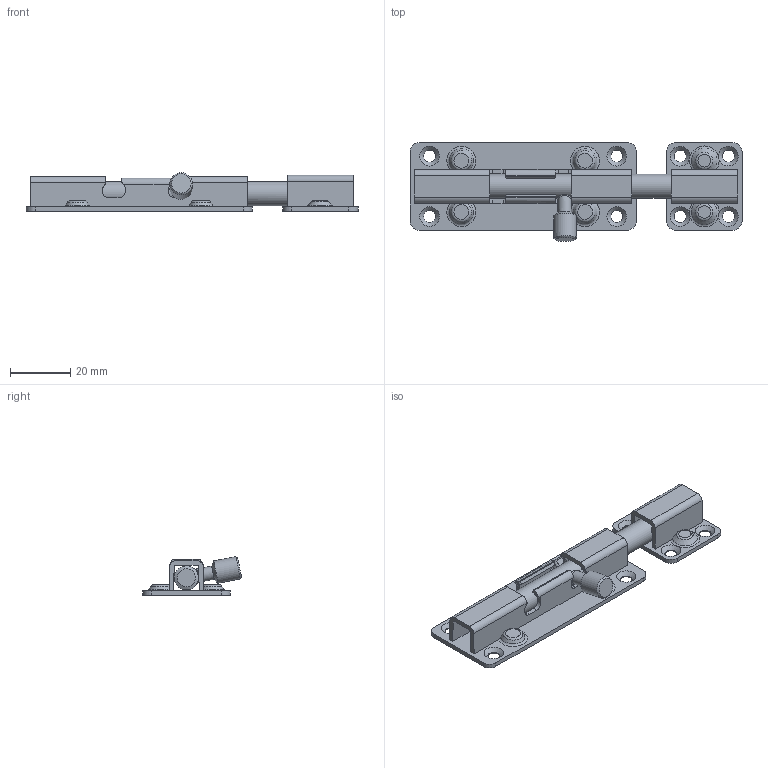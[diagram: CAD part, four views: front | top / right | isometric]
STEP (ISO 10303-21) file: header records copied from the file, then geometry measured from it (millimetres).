
FILE_DESCRIPTION(/* description */ (''),/* implementation_level */ '2;1');
FILE_NAME(/* name */ '\\NAS\db20\ODT4-4\DR_ODT4-4.stp',/* time_stamp */ '2017-09-04T09:32:33+09:00',/* author */ ('user'),/* organization */ (''),/* preprocessor_version */ 'ST-DEVELOPER v15.6',/* originating_system */ 'Autodesk Inventor 2015',/* authorisation */ '');
FILE_SCHEMA (('AUTOMOTIVE_DESIGN { 1 0 10303 214 3 1 1 }'));
Length unit declared in the file: millimetre
Products named in the file (4): DR_ODT4-4; DR_ODT4-4BR; DR_ODT4-4C
Bounding box: 110 x 32.73 x 12.83 mm (x, y, z)
Volume: 11794.3 mm3; surface area: 14000.5 mm2
Topology: 5 solids, 5 shells, 249 faces, 696 edges, 451 vertices
Faces by surface type: plane 137, cylinder 69, cone 24, torus 18, bspline 1
Full cylindrical faces by diameter (mm): 4 x8, 4.5 x1, 7.5 x1, 8 x1
Entity records: 8037 total; most frequent: CARTESIAN_POINT 1879, ORIENTED_EDGE 1250, DIRECTION 1246, EDGE_CURVE 625, AXIS2_PLACEMENT_3D 454, VERTEX_POINT 420, LINE 338, VECTOR 338
